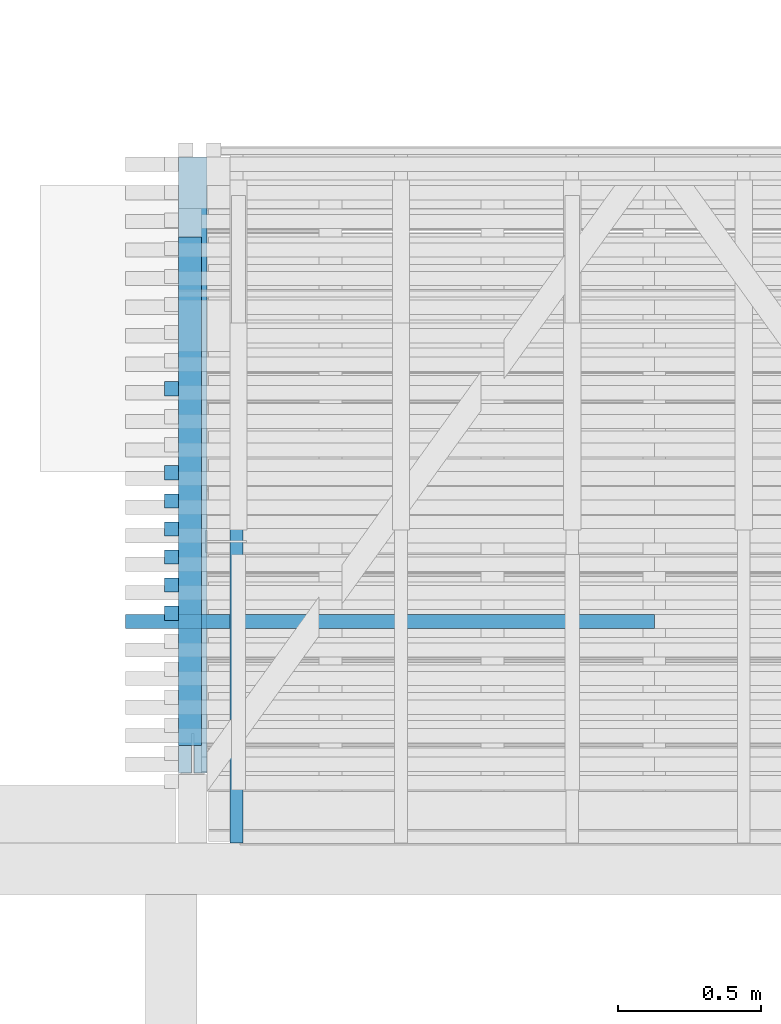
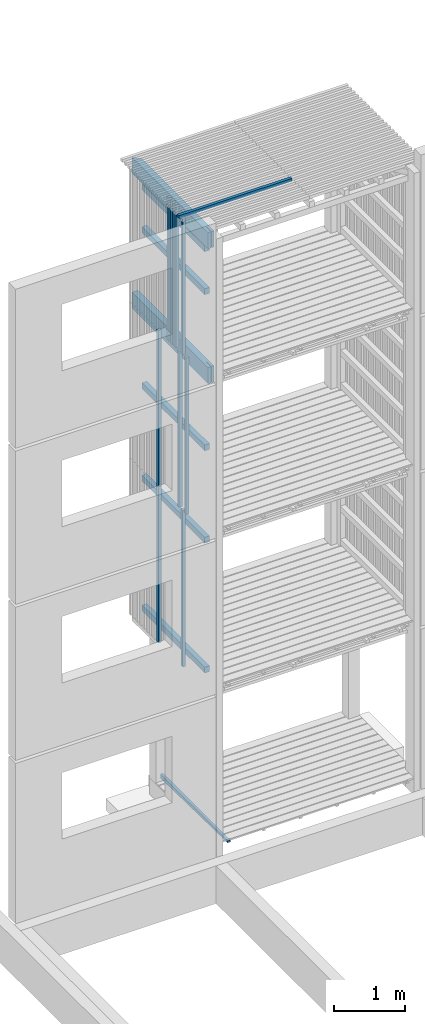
# One storey, part 90 of 182: 18 beams.
"""IFC2X3 building model written with IfcOpenShell, lengths in metres."""

from ifc_helpers import new_model, si_unit, frame, origin, place, context, project, spatial, faceted_brep, element, save


model = new_model("IFC2X3")

# Units and contexts
model_context = context("Model", 3, precision=1e-06, world=origin())
ifc_project = project(units=[si_unit("LENGTHUNIT", "METRE"), si_unit("PLANEANGLEUNIT", "RADIAN")], contexts=[model_context])

# Site, building, storey
site = spatial("IfcSite", under=ifc_project, CompositionType="ELEMENT")
building = spatial("IfcBuilding", under=site, CompositionType="ELEMENT")
storey = spatial("IfcBuildingStorey", under=building, Name="vs", CompositionType="ELEMENT", Elevation=-0.85)

# Beams
placement = place(None, origin())
beam_1_placement = place(placement, frame((43.21790135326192, 4.870077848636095, -0.015599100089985), z_axis=(0.0, 0.0, 1.0), x_axis=(0.0, 1.0, 0.0)))
element("IfcBeam", 1, at=beam_1_placement, inside=storey, Name="Calage", context=model_context, shape_type="Brep", body=[
    faceted_brep([(0.0, 0.022500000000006, 0.002600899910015), (1.910000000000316, 0.022500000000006, -0.035599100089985), (1.910000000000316, -0.022499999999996, -0.035599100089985), (0.0, -0.022499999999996, 0.002600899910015), (0.0, -0.022499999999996, 0.035599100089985), (0.0, 0.022500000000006, 0.035599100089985), (0.0, 0.022500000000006, 0.002600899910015), (0.0, -0.022499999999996, 0.002600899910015), (0.0, 0.022500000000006, 0.035599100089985), (0.0, -0.022499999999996, 0.035599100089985), (1.910000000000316, -0.022499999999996, 0.035599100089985), (1.910000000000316, 0.022500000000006, 0.035599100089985), (0.0, 0.022500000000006, 0.002600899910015), (0.0, 0.022500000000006, 0.035599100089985), (1.910000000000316, 0.022500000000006, 0.035599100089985), (1.910000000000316, 0.022500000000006, -0.035599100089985), (1.910000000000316, 0.022500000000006, -0.035599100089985), (1.910000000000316, 0.022500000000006, 0.035599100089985), (1.910000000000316, -0.022499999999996, 0.035599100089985), (1.910000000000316, -0.022499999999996, -0.035599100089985), (1.910000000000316, -0.022499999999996, -0.035599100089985), (1.910000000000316, -0.022499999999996, 0.035599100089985), (0.0, -0.022499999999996, 0.035599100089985), (0.0, -0.022499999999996, 0.002600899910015)], [[[0, 1, 2, 3]], [[4, 5, 6, 7]], [[8, 9, 10, 11]], [[12, 13, 14, 15]], [[16, 17, 18, 19]], [[20, 21, 22, 23]]]),
])
beam_2_placement = place(placement, frame((44.68040135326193, 5.645077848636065, 10.47999999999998), z_axis=(0.0, 0.0, 1.0), x_axis=(-1.0, 0.0, 0.0)))
element("IfcBeam", 2, at=beam_2_placement, inside=storey, Name="Bardage", context=model_context, shape_type="Brep", body=[
    faceted_brep([(1.850000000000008, -0.024999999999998, -0.024999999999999), (1.850000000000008, -0.024999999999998, 0.025000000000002), (-1e-15, -0.024999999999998, 0.025000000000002), (-1e-15, -0.024999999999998, -0.024999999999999), (1.850000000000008, -0.024999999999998, 0.025000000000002), (1.850000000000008, -0.024999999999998, -0.024999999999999), (1.850000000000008, 0.024999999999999, -0.024999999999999), (1.850000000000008, 0.024999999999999, 0.025000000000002), (1.850000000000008, 0.024999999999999, -0.024999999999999), (1.850000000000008, -0.024999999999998, -0.024999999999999), (-1e-15, -0.024999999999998, -0.024999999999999), (-1e-15, 0.024999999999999, -0.024999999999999), (1.850000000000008, 0.024999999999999, 0.025000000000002), (1.850000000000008, 0.024999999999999, -0.024999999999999), (-1e-15, 0.024999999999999, -0.024999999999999), (-1e-15, 0.024999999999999, 0.025000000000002), (-1e-15, -0.024999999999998, 0.025000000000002), (1.850000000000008, -0.024999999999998, 0.025000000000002), (1.850000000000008, 0.024999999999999, 0.025000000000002), (-1e-15, 0.024999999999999, 0.025000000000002), (-1e-15, -0.024999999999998, -0.024999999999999), (-1e-15, -0.024999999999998, 0.025000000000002), (-1e-15, 0.024999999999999, 0.025000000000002), (-1e-15, 0.024999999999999, -0.024999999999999)], [[[0, 1, 2, 3]], [[4, 5, 6, 7]], [[8, 9, 10, 11]], [[12, 13, 14, 15]], [[16, 17, 18, 19]], [[20, 21, 22, 23]]]),
])
beam_3_placement = place(placement, frame((43.055401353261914, 5.210077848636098, 6.672499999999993), z_axis=(0.0, 0.0, 1.0), x_axis=(0.0, 1.0, 0.0)))
element("IfcBeam", 3, at=beam_3_placement, inside=storey, Name="Support bardage", context=model_context, shape_type="Brep", body=[
    faceted_brep([(1.779999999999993, 0.039999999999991, -0.05), (1.779999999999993, 0.039999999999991, 0.050000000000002), (1.779999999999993, -0.040000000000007, 0.050000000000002), (1.779999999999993, -0.040000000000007, -0.05), (1.779999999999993, -0.040000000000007, 0.050000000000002), (1.779999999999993, 0.039999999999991, 0.050000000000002), (-4e-15, 0.039999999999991, 0.050000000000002), (-4e-15, -0.040000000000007, 0.050000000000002), (-4e-15, 0.039999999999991, 0.050000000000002), (1.779999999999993, 0.039999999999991, 0.050000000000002), (1.779999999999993, 0.039999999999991, -0.05), (-4e-15, 0.039999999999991, -0.05), (1.779999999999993, -0.040000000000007, -0.05), (1.779999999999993, -0.040000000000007, 0.050000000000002), (-4e-15, -0.040000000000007, 0.050000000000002), (-4e-15, -0.040000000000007, -0.05), (-4e-15, 0.039999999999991, -0.05), (1.779999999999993, 0.039999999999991, -0.05), (1.779999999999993, -0.040000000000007, -0.05), (-4e-15, -0.040000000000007, -0.05), (-4e-15, 0.039999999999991, 0.050000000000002), (-4e-15, 0.039999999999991, -0.05), (-4e-15, -0.040000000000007, -0.05), (-4e-15, -0.040000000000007, 0.050000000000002)], [[[0, 1, 2, 3]], [[4, 5, 6, 7]], [[8, 9, 10, 11]], [[12, 13, 14, 15]], [[16, 17, 18, 19]], [[20, 21, 22, 23]]]),
])
beam_4_placement = place(placement, frame((43.055401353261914, 5.210077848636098, 10.114999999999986), z_axis=(0.0, 0.0, 1.0), x_axis=(0.0, 1.0, 0.0)))
element("IfcBeam", 4, at=beam_4_placement, inside=storey, Name="Support bardage", context=model_context, shape_type="Brep", body=[
    faceted_brep([(1.779999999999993, 0.039999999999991, -0.050000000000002), (1.779999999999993, 0.039999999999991, 0.050000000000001), (1.779999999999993, -0.040000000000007, 0.050000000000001), (1.779999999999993, -0.040000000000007, -0.050000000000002), (1.779999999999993, -0.040000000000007, 0.050000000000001), (1.779999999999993, 0.039999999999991, 0.050000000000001), (-4e-15, 0.039999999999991, 0.050000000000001), (-4e-15, -0.040000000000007, 0.050000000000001), (-4e-15, 0.039999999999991, 0.050000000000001), (1.779999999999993, 0.039999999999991, 0.050000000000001), (1.779999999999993, 0.039999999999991, -0.050000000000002), (-4e-15, 0.039999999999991, -0.050000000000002), (1.779999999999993, -0.040000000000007, -0.050000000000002), (1.779999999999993, -0.040000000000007, 0.050000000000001), (-4e-15, -0.040000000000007, 0.050000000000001), (-4e-15, -0.040000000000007, -0.050000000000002), (-4e-15, 0.039999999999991, -0.050000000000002), (1.779999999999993, 0.039999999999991, -0.050000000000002), (1.779999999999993, -0.040000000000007, -0.050000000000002), (-4e-15, -0.040000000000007, -0.050000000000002), (-4e-15, 0.039999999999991, 0.050000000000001), (-4e-15, 0.039999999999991, -0.050000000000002), (-4e-15, -0.040000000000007, -0.050000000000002), (-4e-15, -0.040000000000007, 0.050000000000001)], [[[0, 1, 2, 3]], [[4, 5, 6, 7]], [[8, 9, 10, 11]], [[12, 13, 14, 15]], [[16, 17, 18, 19]], [[20, 21, 22, 23]]]),
])
beam_5_placement = place(placement, frame((42.99040135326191, 5.968714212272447, 7.974999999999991), z_axis=(1.0, 0.0, 0.0), x_axis=(0.0, 0.0, 1.0)))
element("IfcBeam", 5, at=beam_5_placement, inside=storey, Name="Bardage", context=model_context, shape_type="Brep", body=[
    faceted_brep([(0.0, -0.024999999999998, 0.025000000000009), (0.0, 0.025000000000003, 0.025000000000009), (0.0, 0.025000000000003, -0.025000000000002), (0.0, -0.024999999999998, -0.025000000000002), (2.479999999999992, 0.025000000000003, -0.025000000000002), (2.479999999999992, 0.025000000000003, 0.025000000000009), (2.479999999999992, -0.024999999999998, 0.025000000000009), (2.479999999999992, -0.024999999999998, -0.025000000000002), (0.0, 0.025000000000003, 0.025000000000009), (0.0, -0.024999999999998, 0.025000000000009), (2.479999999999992, -0.024999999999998, 0.025000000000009), (2.479999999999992, 0.025000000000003, 0.025000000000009), (0.0, 0.025000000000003, -0.025000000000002), (0.0, 0.025000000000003, 0.025000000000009), (2.479999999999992, 0.025000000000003, 0.025000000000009), (2.479999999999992, 0.025000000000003, -0.025000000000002), (0.0, -0.024999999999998, -0.025000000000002), (0.0, 0.025000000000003, -0.025000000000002), (2.479999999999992, 0.025000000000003, -0.025000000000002), (2.479999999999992, -0.024999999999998, -0.025000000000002), (2.479999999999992, -0.024999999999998, 0.025000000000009), (0.0, -0.024999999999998, 0.025000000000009), (0.0, -0.024999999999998, -0.025000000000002), (2.479999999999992, -0.024999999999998, -0.025000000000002)], [[[0, 1, 2, 3]], [[4, 5, 6, 7]], [[8, 9, 10, 11]], [[12, 13, 14, 15]], [[16, 17, 18, 19]], [[20, 21, 22, 23]]]),
])
beam_6_placement = place(placement, frame((42.99040135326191, 5.870532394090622, 5.274999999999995), z_axis=(1.0, 0.0, 0.0), x_axis=(0.0, 0.0, 1.0)))
element("IfcBeam", 6, at=beam_6_placement, inside=storey, Name="Bardage", context=model_context, shape_type="Brep", body=[
    faceted_brep([(2.699999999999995, 0.024999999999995, 0.025000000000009), (2.699999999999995, -0.025000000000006, 0.025000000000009), (2.699999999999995, -0.025000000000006, -0.025000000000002), (2.699999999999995, 0.024999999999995, -0.025000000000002), (1e-15, 0.024999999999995, 0.025000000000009), (2.699999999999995, 0.024999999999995, 0.025000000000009), (2.699999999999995, 0.024999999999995, -0.025000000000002), (1e-15, 0.024999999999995, -0.025000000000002), (1e-15, -0.025000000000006, 0.025000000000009), (1e-15, 0.024999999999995, 0.025000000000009), (1e-15, 0.024999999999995, -0.025000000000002), (1e-15, -0.025000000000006, -0.025000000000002), (1e-15, 0.024999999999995, 0.025000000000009), (1e-15, -0.025000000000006, 0.025000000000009), (2.699999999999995, -0.025000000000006, 0.025000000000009), (2.699999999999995, 0.024999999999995, 0.025000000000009), (1e-15, -0.025000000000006, 0.025000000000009), (1e-15, -0.025000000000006, -0.025000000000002), (2.699999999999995, -0.025000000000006, -0.025000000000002), (2.699999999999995, -0.025000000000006, 0.025000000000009), (1e-15, -0.025000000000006, -0.025000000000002), (1e-15, 0.024999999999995, -0.025000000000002), (2.699999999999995, 0.024999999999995, -0.025000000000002), (2.699999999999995, -0.025000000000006, -0.025000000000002)], [[[0, 1, 2, 3]], [[4, 5, 6, 7]], [[8, 9, 10, 11]], [[12, 13, 14, 15]], [[16, 17, 18, 19]], [[20, 21, 22, 23]]]),
])
beam_7_placement = place(placement, frame((43.055401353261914, 5.210077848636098, 5.074999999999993), z_axis=(0.0, 0.0, 1.0), x_axis=(0.0, 1.0, 0.0)))
element("IfcBeam", 7, at=beam_7_placement, inside=storey, Name="Support bardage", context=model_context, shape_type="Brep", body=[
    faceted_brep([(1.779999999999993, 0.039999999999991, -0.050000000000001), (1.779999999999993, 0.039999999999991, 0.050000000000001), (1.779999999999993, -0.040000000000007, 0.050000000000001), (1.779999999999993, -0.040000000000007, -0.050000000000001), (1.779999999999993, -0.040000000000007, 0.050000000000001), (1.779999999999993, 0.039999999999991, 0.050000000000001), (-4e-15, 0.039999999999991, 0.050000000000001), (-4e-15, -0.040000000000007, 0.050000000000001), (-4e-15, 0.039999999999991, 0.050000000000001), (1.779999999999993, 0.039999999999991, 0.050000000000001), (1.779999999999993, 0.039999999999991, -0.050000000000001), (-4e-15, 0.039999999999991, -0.050000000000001), (1.779999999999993, -0.040000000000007, -0.050000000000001), (1.779999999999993, -0.040000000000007, 0.050000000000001), (-4e-15, -0.040000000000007, 0.050000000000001), (-4e-15, -0.040000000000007, -0.050000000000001), (-4e-15, 0.039999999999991, -0.050000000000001), (1.779999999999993, 0.039999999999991, -0.050000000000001), (1.779999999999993, -0.040000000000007, -0.050000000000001), (-4e-15, -0.040000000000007, -0.050000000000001), (-4e-15, 0.039999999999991, 0.050000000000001), (-4e-15, 0.039999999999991, -0.050000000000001), (-4e-15, -0.040000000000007, -0.050000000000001), (-4e-15, -0.040000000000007, 0.050000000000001)], [[[0, 1, 2, 3]], [[4, 5, 6, 7]], [[8, 9, 10, 11]], [[12, 13, 14, 15]], [[16, 17, 18, 19]], [[20, 21, 22, 23]]]),
])
beam_8_placement = place(placement, frame((42.99040135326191, 5.674168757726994, 5.274999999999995), z_axis=(1.0, 0.0, 0.0), x_axis=(0.0, 0.0, 1.0)))
element("IfcBeam", 8, at=beam_8_placement, inside=storey, Name="Bardage", context=model_context, shape_type="Brep", body=[
    faceted_brep([(2.699999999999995, 0.025000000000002, 0.025000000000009), (2.699999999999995, -0.025000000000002, 0.025000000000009), (2.699999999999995, -0.025000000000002, -0.025000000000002), (2.699999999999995, 0.025000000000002, -0.025000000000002), (1e-15, 0.025000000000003, 0.025000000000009), (2.699999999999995, 0.025000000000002, 0.025000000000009), (2.699999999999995, 0.025000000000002, -0.025000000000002), (1e-15, 0.025000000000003, -0.025000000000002), (1e-15, -0.025000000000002, 0.025000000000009), (1e-15, 0.025000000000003, 0.025000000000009), (1e-15, 0.025000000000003, -0.025000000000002), (1e-15, -0.025000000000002, -0.025000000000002), (1e-15, 0.025000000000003, 0.025000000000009), (1e-15, -0.025000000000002, 0.025000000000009), (2.699999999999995, -0.025000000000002, 0.025000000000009), (2.699999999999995, 0.025000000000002, 0.025000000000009), (1e-15, -0.025000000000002, 0.025000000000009), (1e-15, -0.025000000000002, -0.025000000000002), (2.699999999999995, -0.025000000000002, -0.025000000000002), (2.699999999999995, -0.025000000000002, 0.025000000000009), (1e-15, -0.025000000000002, -0.025000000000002), (1e-15, 0.025000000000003, -0.025000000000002), (2.699999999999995, 0.025000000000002, -0.025000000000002), (2.699999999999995, -0.025000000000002, -0.025000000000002)], [[[0, 1, 2, 3]], [[4, 5, 6, 7]], [[8, 9, 10, 11]], [[12, 13, 14, 15]], [[16, 17, 18, 19]], [[20, 21, 22, 23]]]),
])
beam_9_placement = place(placement, frame((43.055401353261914, 5.210077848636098, 9.37249999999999), z_axis=(0.0, 0.0, 1.0), x_axis=(0.0, 1.0, 0.0)))
element("IfcBeam", 9, at=beam_9_placement, inside=storey, Name="Support bardage", context=model_context, shape_type="Brep", body=[
    faceted_brep([(1.779999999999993, 0.039999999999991, -0.050000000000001), (1.779999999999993, 0.039999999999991, 0.050000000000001), (1.779999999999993, -0.040000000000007, 0.050000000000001), (1.779999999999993, -0.040000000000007, -0.050000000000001), (1.779999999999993, -0.040000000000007, 0.050000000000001), (1.779999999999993, 0.039999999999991, 0.050000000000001), (-4e-15, 0.039999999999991, 0.050000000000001), (-4e-15, -0.040000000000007, 0.050000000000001), (-4e-15, 0.039999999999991, 0.050000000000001), (1.779999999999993, 0.039999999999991, 0.050000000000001), (1.779999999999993, 0.039999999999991, -0.050000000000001), (-4e-15, 0.039999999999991, -0.050000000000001), (1.779999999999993, -0.040000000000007, -0.050000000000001), (1.779999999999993, -0.040000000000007, 0.050000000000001), (-4e-15, -0.040000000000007, 0.050000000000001), (-4e-15, -0.040000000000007, -0.050000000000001), (-4e-15, 0.039999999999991, -0.050000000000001), (1.779999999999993, 0.039999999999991, -0.050000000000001), (1.779999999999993, -0.040000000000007, -0.050000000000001), (-4e-15, -0.040000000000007, -0.050000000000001), (-4e-15, 0.039999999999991, 0.050000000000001), (-4e-15, 0.039999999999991, -0.050000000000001), (-4e-15, -0.040000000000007, -0.050000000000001), (-4e-15, -0.040000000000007, 0.050000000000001)], [[[0, 1, 2, 3]], [[4, 5, 6, 7]], [[8, 9, 10, 11]], [[12, 13, 14, 15]], [[16, 17, 18, 19]], [[20, 21, 22, 23]]]),
])
beam_10_placement = place(placement, frame((42.99040135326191, 6.066896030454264, 7.974999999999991), z_axis=(1.0, 0.0, 0.0), x_axis=(0.0, 0.0, 1.0)))
element("IfcBeam", 10, at=beam_10_placement, inside=storey, Name="Bardage", context=model_context, shape_type="Brep", body=[
    faceted_brep([(0.0, -0.024999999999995, 0.025000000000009), (0.0, 0.025000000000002, 0.025000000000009), (0.0, 0.025000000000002, -0.025000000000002), (0.0, -0.024999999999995, -0.025000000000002), (2.479999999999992, 0.025000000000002, -0.025000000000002), (2.479999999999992, 0.025000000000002, 0.025000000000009), (2.479999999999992, -0.024999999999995, 0.025000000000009), (2.479999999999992, -0.024999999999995, -0.025000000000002), (0.0, 0.025000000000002, 0.025000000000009), (0.0, -0.024999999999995, 0.025000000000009), (2.479999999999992, -0.024999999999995, 0.025000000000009), (2.479999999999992, 0.025000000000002, 0.025000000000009), (0.0, 0.025000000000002, -0.025000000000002), (0.0, 0.025000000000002, 0.025000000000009), (2.479999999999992, 0.025000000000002, 0.025000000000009), (2.479999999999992, 0.025000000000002, -0.025000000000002), (0.0, -0.024999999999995, -0.025000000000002), (0.0, 0.025000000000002, -0.025000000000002), (2.479999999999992, 0.025000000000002, -0.025000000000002), (2.479999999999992, -0.024999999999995, -0.025000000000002), (2.479999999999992, -0.024999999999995, 0.025000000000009), (0.0, -0.024999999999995, 0.025000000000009), (0.0, -0.024999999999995, -0.025000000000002), (2.479999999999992, -0.024999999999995, -0.025000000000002)], [[[0, 1, 2, 3]], [[4, 5, 6, 7]], [[8, 9, 10, 11]], [[12, 13, 14, 15]], [[16, 17, 18, 19]], [[20, 21, 22, 23]]]),
])
beam_11_placement = place(placement, frame((43.06540135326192, 5.115077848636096, 10.314999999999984), z_axis=(0.0, 0.0, 1.0), x_axis=(0.0, 1.0, 0.0)))
element("IfcBeam", 11, at=beam_11_placement, inside=storey, Name="Sommier", context=model_context, shape_type="Brep", body=[
    faceted_brep([(0.0, -0.004000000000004, 0.140000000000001), (0.0, -0.049999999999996, 0.140000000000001), (2.054999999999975, -0.049999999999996, 0.140000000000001), (2.154999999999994, 0.049999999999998, 0.140000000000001), (0.0, 0.049999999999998, 0.140000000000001), (0.0, 0.003999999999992, 0.140000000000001), (0.137, 0.003999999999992, 0.140000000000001), (0.137, -0.004000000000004, 0.140000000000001), (2.054999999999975, -0.049999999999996, -0.140000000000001), (2.054999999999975, -0.049999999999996, 0.140000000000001), (0.0, -0.049999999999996, 0.140000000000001), (0.0, -0.049999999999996, -0.140000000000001), (2.054999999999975, -0.049999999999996, 0.140000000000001), (2.054999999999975, -0.049999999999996, -0.140000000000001), (2.154999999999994, 0.049999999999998, -0.140000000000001), (2.154999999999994, 0.049999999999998, 0.140000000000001), (0.0, 0.049999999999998, 0.140000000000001), (2.154999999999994, 0.049999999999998, 0.140000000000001), (2.154999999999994, 0.049999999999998, -0.140000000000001), (0.0, 0.049999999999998, -0.140000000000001), (0.0, 0.003999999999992, -0.140000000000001), (0.0, 0.003999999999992, 0.140000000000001), (0.0, 0.049999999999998, 0.140000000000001), (0.0, 0.049999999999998, -0.140000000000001), (0.0, -0.049999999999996, 0.140000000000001), (0.0, -0.004000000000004, 0.140000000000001), (0.0, -0.004000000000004, -0.140000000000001), (0.0, -0.049999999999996, -0.140000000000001), (0.0, 0.049999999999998, -0.140000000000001), (2.154999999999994, 0.049999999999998, -0.140000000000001), (2.054999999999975, -0.049999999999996, -0.140000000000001), (0.0, -0.049999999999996, -0.140000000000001), (0.0, -0.004000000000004, -0.140000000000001), (0.137, -0.004000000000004, -0.140000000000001), (0.137, 0.003999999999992, -0.140000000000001), (0.0, 0.003999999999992, -0.140000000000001), (0.137, 0.003999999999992, -0.140000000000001), (0.137, -0.004000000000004, -0.140000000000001), (0.137, -0.004000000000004, 0.140000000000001), (0.137, 0.003999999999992, 0.140000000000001), (0.0, -0.004000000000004, 0.140000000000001), (0.137, -0.004000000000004, 0.140000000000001), (0.137, -0.004000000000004, -0.140000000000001), (0.0, -0.004000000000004, -0.140000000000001), (0.137, 0.003999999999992, 0.140000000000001), (0.0, 0.003999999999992, 0.140000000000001), (0.0, 0.003999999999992, -0.140000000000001), (0.137, 0.003999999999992, -0.140000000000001)], [[[0, 1, 2, 3, 4, 5, 6, 7]], [[8, 9, 10, 11]], [[12, 13, 14, 15]], [[16, 17, 18, 19]], [[20, 21, 22, 23]], [[24, 25, 26, 27]], [[28, 29, 30, 31, 32, 33, 34, 35]], [[36, 37, 38, 39]], [[40, 41, 42, 43]], [[44, 45, 46, 47]]]),
])
beam_12_placement = place(placement, frame((42.99040135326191, 5.772350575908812, 7.974999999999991), z_axis=(1.0, 0.0, 0.0), x_axis=(0.0, 0.0, 1.0)))
element("IfcBeam", 12, at=beam_12_placement, inside=storey, Name="Bardage", context=model_context, shape_type="Brep", body=[
    faceted_brep([(0.0, -0.024999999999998, 0.025000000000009), (0.0, 0.024999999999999, 0.025000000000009), (0.0, 0.024999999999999, -0.025000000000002), (0.0, -0.024999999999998, -0.025000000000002), (2.479999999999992, 0.024999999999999, -0.025000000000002), (2.479999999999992, 0.024999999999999, 0.025000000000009), (2.479999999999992, -0.024999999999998, 0.025000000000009), (2.479999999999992, -0.024999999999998, -0.025000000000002), (0.0, 0.024999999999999, 0.025000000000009), (0.0, -0.024999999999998, 0.025000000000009), (2.479999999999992, -0.024999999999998, 0.025000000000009), (2.479999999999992, 0.024999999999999, 0.025000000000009), (0.0, 0.024999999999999, -0.025000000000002), (0.0, 0.024999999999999, 0.025000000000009), (2.479999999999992, 0.024999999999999, 0.025000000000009), (2.479999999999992, 0.024999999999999, -0.025000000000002), (0.0, -0.024999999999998, -0.025000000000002), (0.0, 0.024999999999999, -0.025000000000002), (2.479999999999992, 0.024999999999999, -0.025000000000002), (2.479999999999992, -0.024999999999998, -0.025000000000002), (2.479999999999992, -0.024999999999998, 0.025000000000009), (0.0, -0.024999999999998, 0.025000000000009), (0.0, -0.024999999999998, -0.025000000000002), (2.479999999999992, -0.024999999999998, -0.025000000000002)], [[[0, 1, 2, 3]], [[4, 5, 6, 7]], [[8, 9, 10, 11]], [[12, 13, 14, 15]], [[16, 17, 18, 19]], [[20, 21, 22, 23]]]),
])
beam_13_placement = place(placement, frame((42.99040135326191, 6.165077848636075, 7.974999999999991), z_axis=(1.0, 0.0, 0.0), x_axis=(0.0, 1e-15, 1.0)))
element("IfcBeam", 13, at=beam_13_placement, inside=storey, Name="Bardage", context=model_context, shape_type="Brep", body=[
    faceted_brep([(0.0, -0.025000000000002, 0.025000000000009), (0.0, 0.024999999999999, 0.025000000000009), (0.0, 0.024999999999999, -0.025000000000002), (0.0, -0.025000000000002, -0.025000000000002), (2.479999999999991, 0.025000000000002, -0.025000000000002), (2.479999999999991, 0.025000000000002, 0.025000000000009), (2.479999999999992, -0.025000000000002, 0.025000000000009), (2.479999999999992, -0.025000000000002, -0.025000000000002), (0.0, 0.024999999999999, 0.025000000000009), (0.0, -0.025000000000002, 0.025000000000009), (2.479999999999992, -0.025000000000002, 0.025000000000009), (2.479999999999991, 0.025000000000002, 0.025000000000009), (0.0, 0.024999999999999, -0.025000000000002), (0.0, 0.024999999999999, 0.025000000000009), (2.479999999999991, 0.025000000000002, 0.025000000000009), (2.479999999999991, 0.025000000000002, -0.025000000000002), (0.0, -0.025000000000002, -0.025000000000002), (0.0, 0.024999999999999, -0.025000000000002), (2.479999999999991, 0.025000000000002, -0.025000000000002), (2.479999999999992, -0.025000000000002, -0.025000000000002), (2.479999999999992, -0.025000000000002, 0.025000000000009), (0.0, -0.025000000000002, 0.025000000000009), (0.0, -0.025000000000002, -0.025000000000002), (2.479999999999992, -0.025000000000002, -0.025000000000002)], [[[0, 1, 2, 3]], [[4, 5, 6, 7]], [[8, 9, 10, 11]], [[12, 13, 14, 15]], [[16, 17, 18, 19]], [[20, 21, 22, 23]]]),
])
beam_14_placement = place(placement, frame((42.99040135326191, 6.459623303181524, 5.274999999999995), z_axis=(1.0, 0.0, 0.0), x_axis=(0.0, 0.0, 1.0)))
element("IfcBeam", 14, at=beam_14_placement, inside=storey, Name="Bardage", context=model_context, shape_type="Brep", body=[
    faceted_brep([(2.699999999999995, 0.024999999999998, 0.025000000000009), (2.699999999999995, -0.025000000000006, 0.025000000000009), (2.699999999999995, -0.025000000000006, -0.025000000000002), (2.699999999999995, 0.024999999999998, -0.025000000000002), (1e-15, 0.024999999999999, 0.025000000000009), (2.699999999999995, 0.024999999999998, 0.025000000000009), (2.699999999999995, 0.024999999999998, -0.025000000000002), (1e-15, 0.024999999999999, -0.025000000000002), (1e-15, -0.025000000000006, 0.025000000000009), (1e-15, 0.024999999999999, 0.025000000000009), (1e-15, 0.024999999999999, -0.025000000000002), (1e-15, -0.025000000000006, -0.025000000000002), (1e-15, 0.024999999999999, 0.025000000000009), (1e-15, -0.025000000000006, 0.025000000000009), (2.699999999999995, -0.025000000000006, 0.025000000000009), (2.699999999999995, 0.024999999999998, 0.025000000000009), (1e-15, -0.025000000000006, 0.025000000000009), (1e-15, -0.025000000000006, -0.025000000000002), (2.699999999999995, -0.025000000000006, -0.025000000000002), (2.699999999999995, -0.025000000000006, 0.025000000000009), (1e-15, -0.025000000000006, -0.025000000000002), (1e-15, 0.024999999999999, -0.025000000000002), (2.699999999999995, 0.024999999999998, -0.025000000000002), (2.699999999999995, -0.025000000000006, -0.025000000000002)], [[[0, 1, 2, 3]], [[4, 5, 6, 7]], [[8, 9, 10, 11]], [[12, 13, 14, 15]], [[16, 17, 18, 19]], [[20, 21, 22, 23]]]),
])
beam_15_placement = place(placement, frame((42.99040135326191, 5.772350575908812, 2.575000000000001), z_axis=(1.0, 0.0, 0.0), x_axis=(0.0, 0.0, 1.0)))
element("IfcBeam", 15, at=beam_15_placement, inside=storey, Name="Bardage", context=model_context, shape_type="Brep", body=[
    faceted_brep([(2.699961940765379, -0.024999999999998, 0.025000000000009), (2.699961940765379, -0.024999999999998, -0.025000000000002), (2.699961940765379, 0.024999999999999, -0.025000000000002), (2.699961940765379, 0.024999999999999, 0.025000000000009), (0.0, -0.024999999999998, 0.025000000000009), (2.699961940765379, -0.024999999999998, 0.025000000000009), (2.699961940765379, 0.024999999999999, 0.025000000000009), (0.0, 0.024999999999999, 0.025000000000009), (0.0, -0.024999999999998, 0.025000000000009), (0.0, 0.024999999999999, 0.025000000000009), (0.0, 0.024999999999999, -0.025000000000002), (0.0, -0.024999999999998, -0.025000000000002), (0.0, -0.024999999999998, 0.025000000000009), (0.0, -0.024999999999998, -0.025000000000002), (2.699961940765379, -0.024999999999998, -0.025000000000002), (2.699961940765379, -0.024999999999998, 0.025000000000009), (0.0, -0.024999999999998, -0.025000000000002), (0.0, 0.024999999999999, -0.025000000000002), (2.699961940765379, 0.024999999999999, -0.025000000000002), (2.699961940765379, -0.024999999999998, -0.025000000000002), (0.0, 0.024999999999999, -0.025000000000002), (0.0, 0.024999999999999, 0.025000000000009), (2.699961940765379, 0.024999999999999, 0.025000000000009), (2.699961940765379, 0.024999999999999, -0.025000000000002)], [[[0, 1, 2, 3]], [[4, 5, 6, 7]], [[8, 9, 10, 11]], [[12, 13, 14, 15]], [[16, 17, 18, 19]], [[20, 21, 22, 23]]]),
])
beam_16_placement = place(placement, frame((43.06540135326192, 5.115077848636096, 7.979999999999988), z_axis=(0.0, 0.0, 1.0), x_axis=(0.0, 1.0, 0.0)))
element("IfcBeam", 16, at=beam_16_placement, inside=storey, Name="Sommier", context=model_context, shape_type="Brep", body=[
    faceted_brep([(2.154999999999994, 0.049999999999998, 0.140000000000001), (2.154999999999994, -0.049999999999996, 0.140000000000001), (2.154999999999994, -0.049999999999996, -0.14), (2.154999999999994, 0.049999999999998, -0.14), (0.771999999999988, -0.049999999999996, -0.14), (0.771999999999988, -0.049999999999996, 0.035000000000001), (0.847999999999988, -0.049999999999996, 0.035000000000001), (0.847999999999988, -0.049999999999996, -0.14), (2.154999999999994, -0.049999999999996, -0.14), (2.154999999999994, -0.049999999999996, 0.140000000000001), (0.0, -0.049999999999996, 0.140000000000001), (0.0, -0.049999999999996, -0.14), (0.771999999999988, -0.045000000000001, -0.14), (0.847999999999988, -0.045000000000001, -0.14), (0.847999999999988, -0.045000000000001, 0.035000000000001), (0.771999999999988, -0.045000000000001, 0.035000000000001), (0.771999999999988, -0.045000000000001, 0.035000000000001), (0.847999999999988, -0.045000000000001, 0.035000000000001), (0.847999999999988, -0.049999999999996, 0.035000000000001), (0.771999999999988, -0.049999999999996, 0.035000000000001), (0.847999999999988, -0.045000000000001, 0.035000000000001), (0.847999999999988, -0.045000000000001, -0.14), (0.847999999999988, -0.049999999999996, -0.14), (0.847999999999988, -0.049999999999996, 0.035000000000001), (0.771999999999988, -0.049999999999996, 0.035000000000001), (0.771999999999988, -0.049999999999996, -0.14), (0.771999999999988, -0.045000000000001, -0.14), (0.771999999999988, -0.045000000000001, 0.035000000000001), (2.154999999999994, 0.049999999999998, 0.140000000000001), (2.154999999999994, 0.049999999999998, -0.14), (0.0, 0.049999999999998, -0.14), (0.0, 0.049999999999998, 0.140000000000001), (0.0, -0.00399999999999, 0.140000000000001), (0.0, -0.049999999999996, 0.140000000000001), (2.154999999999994, -0.049999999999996, 0.140000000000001), (2.154999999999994, 0.049999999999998, 0.140000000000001), (0.0, 0.049999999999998, 0.140000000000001), (0.0, 0.004000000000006, 0.140000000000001), (0.137, 0.004000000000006, 0.140000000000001), (0.137, -0.00399999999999, 0.140000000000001), (0.0, 0.004000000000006, -0.14), (0.0, 0.004000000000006, 0.140000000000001), (0.0, 0.049999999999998, 0.140000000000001), (0.0, 0.049999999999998, -0.14), (0.0, -0.049999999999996, 0.140000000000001), (0.0, -0.00399999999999, 0.140000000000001), (0.0, -0.00399999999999, -0.14), (0.0, -0.049999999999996, -0.14), (0.0, 0.049999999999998, -0.14), (2.154999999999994, 0.049999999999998, -0.14), (2.154999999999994, -0.049999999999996, -0.14), (0.847999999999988, -0.049999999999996, -0.14), (0.847999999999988, -0.045000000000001, -0.14), (0.771999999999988, -0.045000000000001, -0.14), (0.771999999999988, -0.049999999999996, -0.14), (0.0, -0.049999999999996, -0.14), (0.0, -0.00399999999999, -0.14), (0.137, -0.00399999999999, -0.14), (0.137, 0.004000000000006, -0.14), (0.0, 0.004000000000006, -0.14), (0.137, 0.004000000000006, -0.14), (0.137, -0.00399999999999, -0.14), (0.137, -0.00399999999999, 0.140000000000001), (0.137, 0.004000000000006, 0.140000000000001), (0.0, -0.00399999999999, 0.140000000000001), (0.137, -0.00399999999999, 0.140000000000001), (0.137, -0.00399999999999, -0.14), (0.0, -0.00399999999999, -0.14), (0.137, 0.004000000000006, 0.140000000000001), (0.0, 0.004000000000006, 0.140000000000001), (0.0, 0.004000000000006, -0.14), (0.137, 0.004000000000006, -0.14)], [[[0, 1, 2, 3]], [[4, 5, 6, 7, 8, 9, 10, 11]], [[12, 13, 14, 15]], [[16, 17, 18, 19]], [[20, 21, 22, 23]], [[24, 25, 26, 27]], [[28, 29, 30, 31]], [[32, 33, 34, 35, 36, 37, 38, 39]], [[40, 41, 42, 43]], [[44, 45, 46, 47]], [[48, 49, 50, 51, 52, 53, 54, 55, 56, 57, 58, 59]], [[60, 61, 62, 63]], [[64, 65, 66, 67]], [[68, 69, 70, 71]]]),
])
beam_17_placement = place(placement, frame((42.99040135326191, 6.459623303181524, 2.575000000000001), z_axis=(1.0, 0.0, 0.0), x_axis=(0.0, 0.0, 1.0)))
element("IfcBeam", 17, at=beam_17_placement, inside=storey, Name="Bardage", context=model_context, shape_type="Brep", body=[
    faceted_brep([(2.699961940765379, -0.025000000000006, 0.025000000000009), (2.699961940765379, -0.025000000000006, -0.025000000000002), (2.699961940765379, 0.024999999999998, -0.025000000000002), (2.699961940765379, 0.024999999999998, 0.025000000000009), (0.0, -0.025000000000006, 0.025000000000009), (2.699961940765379, -0.025000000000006, 0.025000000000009), (2.699961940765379, 0.024999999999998, 0.025000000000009), (0.0, 0.024999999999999, 0.025000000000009), (0.0, -0.025000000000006, 0.025000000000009), (0.0, 0.024999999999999, 0.025000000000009), (0.0, 0.024999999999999, -0.025000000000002), (0.0, -0.025000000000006, -0.025000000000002), (0.0, -0.025000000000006, 0.025000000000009), (0.0, -0.025000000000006, -0.025000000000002), (2.699961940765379, -0.025000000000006, -0.025000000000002), (2.699961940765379, -0.025000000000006, 0.025000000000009), (0.0, -0.025000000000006, -0.025000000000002), (0.0, 0.024999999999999, -0.025000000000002), (2.699961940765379, 0.024999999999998, -0.025000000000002), (2.699961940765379, -0.025000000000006, -0.025000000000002), (0.0, 0.024999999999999, -0.025000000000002), (0.0, 0.024999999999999, 0.025000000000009), (2.699961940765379, 0.024999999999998, 0.025000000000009), (2.699961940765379, 0.024999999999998, -0.025000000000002)], [[[0, 1, 2, 3]], [[4, 5, 6, 7]], [[8, 9, 10, 11]], [[12, 13, 14, 15]], [[16, 17, 18, 19]], [[20, 21, 22, 23]]]),
])
beam_18_placement = place(placement, frame((43.055401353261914, 5.210077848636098, 2.830000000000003), z_axis=(0.0, 0.0, 1.0), x_axis=(0.0, 1.0, 0.0)))
element("IfcBeam", 18, at=beam_18_placement, inside=storey, Name="Support bardage", context=model_context, shape_type="Brep", body=[
    faceted_brep([(1.779999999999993, 0.039999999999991, -0.050000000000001), (1.779999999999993, 0.039999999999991, 0.05), (1.779999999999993, -0.040000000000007, 0.05), (1.779999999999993, -0.040000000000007, -0.050000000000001), (1.779999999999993, -0.040000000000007, 0.05), (1.779999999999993, 0.039999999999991, 0.05), (-4e-15, 0.039999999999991, 0.05), (-4e-15, -0.040000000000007, 0.05), (-4e-15, 0.039999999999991, 0.05), (1.779999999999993, 0.039999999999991, 0.05), (1.779999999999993, 0.039999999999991, -0.050000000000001), (-4e-15, 0.039999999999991, -0.050000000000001), (1.779999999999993, -0.040000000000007, -0.050000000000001), (1.779999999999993, -0.040000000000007, 0.05), (-4e-15, -0.040000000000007, 0.05), (-4e-15, -0.040000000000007, -0.050000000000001), (-4e-15, 0.039999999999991, -0.050000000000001), (1.779999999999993, 0.039999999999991, -0.050000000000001), (1.779999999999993, -0.040000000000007, -0.050000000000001), (-4e-15, -0.040000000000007, -0.050000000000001), (-4e-15, 0.039999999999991, 0.05), (-4e-15, 0.039999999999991, -0.050000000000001), (-4e-15, -0.040000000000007, -0.050000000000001), (-4e-15, -0.040000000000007, 0.05)], [[[0, 1, 2, 3]], [[4, 5, 6, 7]], [[8, 9, 10, 11]], [[12, 13, 14, 15]], [[16, 17, 18, 19]], [[20, 21, 22, 23]]]),
])

save(model, "model.ifc")
